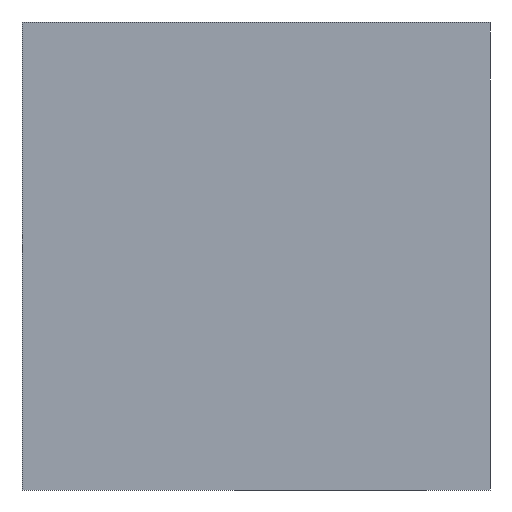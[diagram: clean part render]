
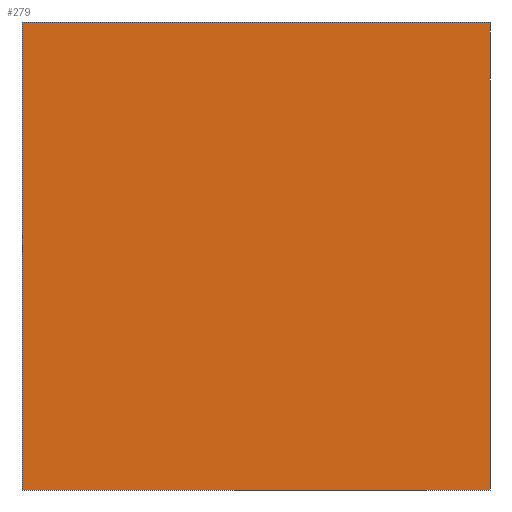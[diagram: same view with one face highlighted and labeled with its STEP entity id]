
A CAD part, front view. The second image highlights one B-rep face of the part: STEP entity #279.
In plain terms, the highlighted planar face has unit normal (0, -1, 0).
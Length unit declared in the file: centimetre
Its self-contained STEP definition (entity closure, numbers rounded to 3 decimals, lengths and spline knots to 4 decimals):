
#13 = EDGE_CURVE ( 'NONE', #339, #445, #250, .T. ) ;
#15 = EDGE_CURVE ( 'NONE', #445, #408, #317, .T. ) ;
#39 = AXIS2_PLACEMENT_3D ( 'NONE', #40, #180, #177 ) ;
#40 = CARTESIAN_POINT ( 'NONE',  ( 0., 0., 1000. ) ) ;
#78 = ORIENTED_EDGE ( 'NONE', *, *, #13, .T. ) ;
#115 = FACE_OUTER_BOUND ( 'NONE', #331, .T. ) ;
#116 = VERTEX_POINT ( 'NONE', #413 ) ;
#123 = DIRECTION ( 'NONE',  ( 1., 0., 0. ) ) ;
#133 = CARTESIAN_POINT ( 'NONE',  ( 0., 0., 0. ) ) ;
#134 = CARTESIAN_POINT ( 'NONE',  ( 0., 0., 0. ) ) ;
#152 = PLANE ( 'NONE',  #39 ) ;
#177 = DIRECTION ( 'NONE',  ( 0., 0., 1. ) ) ;
#180 = DIRECTION ( 'NONE',  ( 0., 1., 0. ) ) ;
#199 = VECTOR ( 'NONE', #284, 100. ) ;
#201 = CARTESIAN_POINT ( 'NONE',  ( 0., 0., 1000. ) ) ;
#206 = LINE ( 'NONE', #387, #476 ) ;
#234 = LINE ( 'NONE', #201, #397 ) ;
#250 = LINE ( 'NONE', #367, #199 ) ;
#251 = ORIENTED_EDGE ( 'NONE', *, *, #464, .F. ) ;
#279 = ADVANCED_FACE ( 'NONE', ( #115 ), #152, .F. ) ;
#284 = DIRECTION ( 'NONE',  ( 0., 0., -1. ) ) ;
#308 = DIRECTION ( 'NONE',  ( 0., 0., -1. ) ) ;
#317 = LINE ( 'NONE', #134, #379 ) ;
#331 = EDGE_LOOP ( 'NONE', ( #482, #251, #461, #78 ) ) ;
#339 = VERTEX_POINT ( 'NONE', #448 ) ;
#345 = CARTESIAN_POINT ( 'NONE',  ( 1000., 0., 0. ) ) ;
#359 = DIRECTION ( 'NONE',  ( 1., 0., 0. ) ) ;
#367 = CARTESIAN_POINT ( 'NONE',  ( 0., 0., 1000. ) ) ;
#379 = VECTOR ( 'NONE', #359, 100. ) ;
#387 = CARTESIAN_POINT ( 'NONE',  ( 1000., 0., 1000. ) ) ;
#397 = VECTOR ( 'NONE', #123, 100. ) ;
#408 = VERTEX_POINT ( 'NONE', #345 ) ;
#413 = CARTESIAN_POINT ( 'NONE',  ( 1000., 0., 1000. ) ) ;
#445 = VERTEX_POINT ( 'NONE', #133 ) ;
#448 = CARTESIAN_POINT ( 'NONE',  ( 0., 0., 1000. ) ) ;
#454 = EDGE_CURVE ( 'NONE', #339, #116, #234, .T. ) ;
#461 = ORIENTED_EDGE ( 'NONE', *, *, #454, .F. ) ;
#464 = EDGE_CURVE ( 'NONE', #116, #408, #206, .T. ) ;
#476 = VECTOR ( 'NONE', #308, 100. ) ;
#482 = ORIENTED_EDGE ( 'NONE', *, *, #15, .T. ) ;
